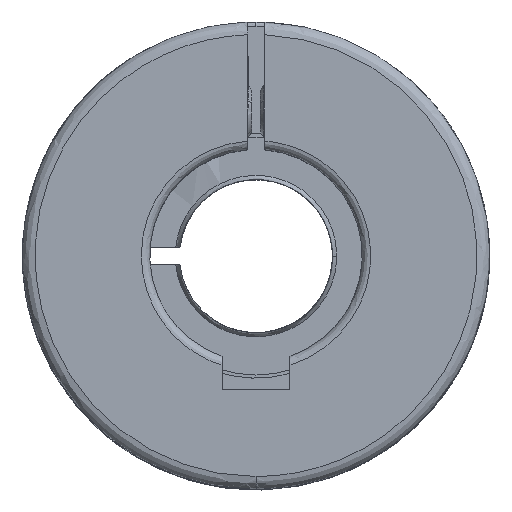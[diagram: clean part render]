
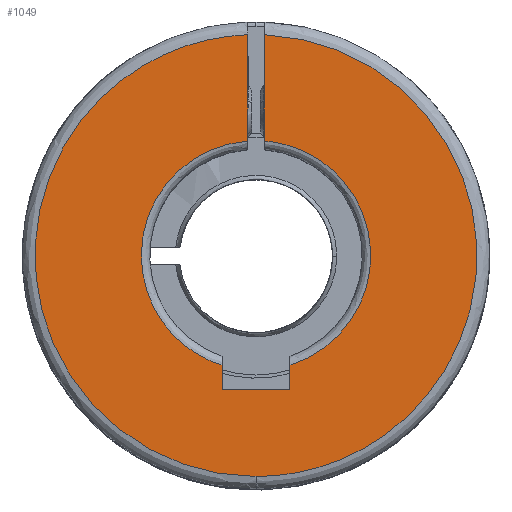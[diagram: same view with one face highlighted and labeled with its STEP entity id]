
A CAD part, top view. The second image highlights one B-rep face of the part: STEP entity #1049.
In plain terms, the highlighted planar face has unit normal (0, 0, 1).
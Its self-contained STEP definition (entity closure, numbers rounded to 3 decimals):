
#604 = EDGE_CURVE ( 'NONE', #14921, #605, #5027, .T. ) ;
#605 = VERTEX_POINT ( 'NONE', #5023 ) ;
#1049 = ADVANCED_FACE ( 'NONE', ( #6151 ), #6150, .F. ) ;
#1050 = ORIENTED_EDGE ( 'NONE', *, *, #1051, .F. ) ;
#1051 = EDGE_CURVE ( 'NONE', #605, #1052, #6145, .T. ) ;
#1052 = VERTEX_POINT ( 'NONE', #6144 ) ;
#1053 = ORIENTED_EDGE ( 'NONE', *, *, #604, .F. ) ;
#1054 = ORIENTED_EDGE ( 'NONE', *, *, #14919, .F. ) ;
#1055 = ORIENTED_EDGE ( 'NONE', *, *, #14937, .F. ) ;
#1056 = ORIENTED_EDGE ( 'NONE', *, *, #14957, .F. ) ;
#1057 = ORIENTED_EDGE ( 'NONE', *, *, #1058, .F. ) ;
#1058 = EDGE_CURVE ( 'NONE', #1116, #14953, #6187, .T. ) ;
#1071 = EDGE_LOOP ( 'NONE', ( #1050, #1053, #1054, #1055, #1056, #1057, #1117, #1120, #1123 ) ) ;
#1116 = VERTEX_POINT ( 'NONE', #6437 ) ;
#1117 = ORIENTED_EDGE ( 'NONE', *, *, #1118, .F. ) ;
#1118 = EDGE_CURVE ( 'NONE', #1119, #1116, #6436, .T. ) ;
#1119 = VERTEX_POINT ( 'NONE', #6432 ) ;
#1120 = ORIENTED_EDGE ( 'NONE', *, *, #1121, .F. ) ;
#1121 = EDGE_CURVE ( 'NONE', #1122, #1119, #6431, .T. ) ;
#1122 = VERTEX_POINT ( 'NONE', #6427 ) ;
#1123 = ORIENTED_EDGE ( 'NONE', *, *, #1124, .F. ) ;
#1124 = EDGE_CURVE ( 'NONE', #1052, #1122, #6426, .T. ) ;
#5023 = CARTESIAN_POINT ( 'NONE',  ( -2.172, 17.137, 42.541 ) ) ;
#5024 = DIRECTION ( 'NONE',  ( 0., -1., 0. ) ) ;
#5025 = VECTOR ( 'NONE', #5024, 1000. ) ;
#5026 = CARTESIAN_POINT ( 'NONE',  ( -2.172, 3.674, 42.541 ) ) ;
#5027 = LINE ( 'NONE', #5026, #5025 ) ;
#6143 = CARTESIAN_POINT ( 'NONE',  ( -2.172, 17.137, 42.541 ) ) ;
#6144 = CARTESIAN_POINT ( 'NONE',  ( -5.172, -9.22, 42.541 ) ) ;
#6145 =( BOUNDED_CURVE ( )  B_SPLINE_CURVE ( 3, ( #6143, #6190, #6189, #6188 ),
 .UNSPECIFIED., .F., .F. ) 
 B_SPLINE_CURVE_WITH_KNOTS ( ( 4, 4 ),
 ( 0., 1. ),
 .UNSPECIFIED. ) 
 CURVE ( )  GEOMETRIC_REPRESENTATION_ITEM ( )  RATIONAL_B_SPLINE_CURVE ( ( 1., 0.458, 0.458, 1. ) ) 
 REPRESENTATION_ITEM ( '' )  );
#6146 = DIRECTION ( 'NONE',  ( 0., 1., 0. ) ) ;
#6147 = DIRECTION ( 'NONE',  ( 0., 0., -1. ) ) ;
#6148 = CARTESIAN_POINT ( 'NONE',  ( -1.172, 3.674, 42.541 ) ) ;
#6149 = AXIS2_PLACEMENT_3D ( 'NONE', #6148, #6147, #6146 ) ;
#6150 = PLANE ( 'NONE',  #6149 ) ;
#6151 = FACE_OUTER_BOUND ( 'NONE', #1071, .T. ) ;
#6183 = CARTESIAN_POINT ( 'NONE',  ( -0.172, 17.137, 42.541 ) ) ;
#6184 = CARTESIAN_POINT ( 'NONE',  ( 19.099, 15.706, 42.541 ) ) ;
#6185 = CARTESIAN_POINT ( 'NONE',  ( 21.284, -3.494, 42.541 ) ) ;
#6186 = CARTESIAN_POINT ( 'NONE',  ( 2.828, -9.22, 42.541 ) ) ;
#6187 =( BOUNDED_CURVE ( )  B_SPLINE_CURVE ( 3, ( #6186, #6185, #6184, #6183 ),
 .UNSPECIFIED., .F., .T. ) 
 B_SPLINE_CURVE_WITH_KNOTS ( ( 4, 4 ),
 ( 0., 1. ),
 .UNSPECIFIED. ) 
 CURVE ( )  GEOMETRIC_REPRESENTATION_ITEM ( )  RATIONAL_B_SPLINE_CURVE ( ( 1., 0.458, 0.458, 1. ) ) 
 REPRESENTATION_ITEM ( '' )  );
#6188 = CARTESIAN_POINT ( 'NONE',  ( -5.172, -9.22, 42.541 ) ) ;
#6189 = CARTESIAN_POINT ( 'NONE',  ( -23.628, -3.494, 42.541 ) ) ;
#6190 = CARTESIAN_POINT ( 'NONE',  ( -21.442, 15.706, 42.541 ) ) ;
#6423 = DIRECTION ( 'NONE',  ( 0., -1., 0. ) ) ;
#6424 = VECTOR ( 'NONE', #6423, 1000. ) ;
#6425 = CARTESIAN_POINT ( 'NONE',  ( -5.172, 3.674, 42.541 ) ) ;
#6426 = LINE ( 'NONE', #6425, #6424 ) ;
#6427 = CARTESIAN_POINT ( 'NONE',  ( -5.172, -12.126, 42.541 ) ) ;
#6428 = DIRECTION ( 'NONE',  ( 1., 0., 0. ) ) ;
#6429 = VECTOR ( 'NONE', #6428, 1000. ) ;
#6430 = CARTESIAN_POINT ( 'NONE',  ( -1.172, -12.126, 42.541 ) ) ;
#6431 = LINE ( 'NONE', #6430, #6429 ) ;
#6432 = CARTESIAN_POINT ( 'NONE',  ( 2.828, -12.126, 42.541 ) ) ;
#6433 = DIRECTION ( 'NONE',  ( 0., 1., 0. ) ) ;
#6434 = VECTOR ( 'NONE', #6433, 1000. ) ;
#6435 = CARTESIAN_POINT ( 'NONE',  ( 2.828, 3.674, 42.541 ) ) ;
#6436 = LINE ( 'NONE', #6435, #6434 ) ;
#6437 = CARTESIAN_POINT ( 'NONE',  ( 2.828, -9.22, 42.541 ) ) ;
#13669 = CARTESIAN_POINT ( 'NONE',  ( -1.172, -22.326, 42.541 ) ) ;
#13670 = CARTESIAN_POINT ( 'NONE',  ( -2.172, 29.655, 42.541 ) ) ;
#13693 = CARTESIAN_POINT ( 'NONE',  ( -2.172, 29.655, 42.541 ) ) ;
#13694 = CARTESIAN_POINT ( 'NONE',  ( -52.199, 27.729, 42.541 ) ) ;
#13695 = CARTESIAN_POINT ( 'NONE',  ( -51.236, -22.326, 42.541 ) ) ;
#13696 = CARTESIAN_POINT ( 'NONE',  ( -1.172, -22.326, 42.541 ) ) ;
#13697 =( BOUNDED_CURVE ( )  B_SPLINE_CURVE ( 3, ( #13696, #13695, #13694, #13693 ),
 .UNSPECIFIED., .F., .T. ) 
 B_SPLINE_CURVE_WITH_KNOTS ( ( 4, 4 ),
 ( 0., 1. ),
 .UNSPECIFIED. ) 
 CURVE ( )  GEOMETRIC_REPRESENTATION_ITEM ( )  RATIONAL_B_SPLINE_CURVE ( ( 1., 0.346, 0.346, 1. ) ) 
 REPRESENTATION_ITEM ( '' )  );
#13863 = CARTESIAN_POINT ( 'NONE',  ( -0.172, 29.655, 42.541 ) ) ;
#13866 = CARTESIAN_POINT ( 'NONE',  ( -1.172, -22.326, 42.541 ) ) ;
#13867 = CARTESIAN_POINT ( 'NONE',  ( 48.893, -22.326, 42.541 ) ) ;
#13868 = CARTESIAN_POINT ( 'NONE',  ( 49.856, 27.729, 42.541 ) ) ;
#13869 = CARTESIAN_POINT ( 'NONE',  ( -0.172, 29.655, 42.541 ) ) ;
#13870 =( BOUNDED_CURVE ( )  B_SPLINE_CURVE ( 3, ( #13869, #13868, #13867, #13866 ),
 .UNSPECIFIED., .F., .T. ) 
 B_SPLINE_CURVE_WITH_KNOTS ( ( 4, 4 ),
 ( 0., 1. ),
 .UNSPECIFIED. ) 
 CURVE ( )  GEOMETRIC_REPRESENTATION_ITEM ( )  RATIONAL_B_SPLINE_CURVE ( ( 1., 0.346, 0.346, 1. ) ) 
 REPRESENTATION_ITEM ( '' )  );
#13876 = DIRECTION ( 'NONE',  ( 0., 1., 0. ) ) ;
#13877 = VECTOR ( 'NONE', #13876, 1000. ) ;
#13878 = CARTESIAN_POINT ( 'NONE',  ( -0.172, 3.674, 42.541 ) ) ;
#13881 = LINE ( 'NONE', #13878, #13877 ) ;
#13889 = CARTESIAN_POINT ( 'NONE',  ( -0.172, 17.137, 42.541 ) ) ;
#14919 = EDGE_CURVE ( 'NONE', #14922, #14921, #13697, .T. ) ;
#14921 = VERTEX_POINT ( 'NONE', #13670 ) ;
#14922 = VERTEX_POINT ( 'NONE', #13669 ) ;
#14937 = EDGE_CURVE ( 'NONE', #14942, #14922, #13870, .T. ) ;
#14942 = VERTEX_POINT ( 'NONE', #13863 ) ;
#14953 = VERTEX_POINT ( 'NONE', #13889 ) ;
#14957 = EDGE_CURVE ( 'NONE', #14953, #14942, #13881, .T. ) ;
